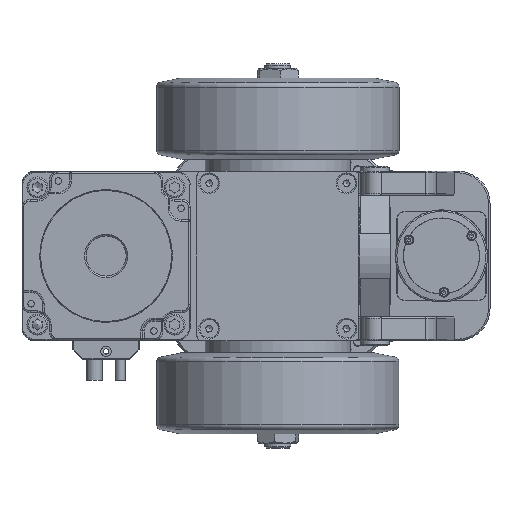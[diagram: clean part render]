
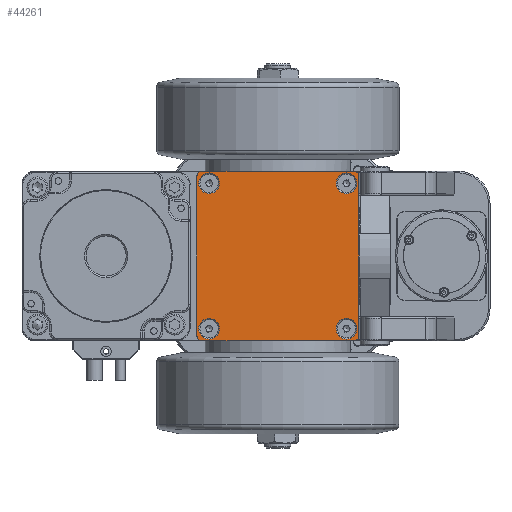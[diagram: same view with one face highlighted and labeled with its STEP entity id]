
A CAD part, front view. The second image highlights one B-rep face of the part: STEP entity #44261.
In plain terms, the highlighted planar face has unit normal (0, -1, 0).
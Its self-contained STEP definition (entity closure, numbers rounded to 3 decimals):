
#1093 = AXIS2_PLACEMENT_3D ( 'NONE', #84439, #37318, #6145 ) ;
#1751 = EDGE_CURVE ( 'NONE', #2199, #42253, #3228, .T. ) ;
#2199 = VERTEX_POINT ( 'NONE', #19975 ) ;
#3228 = CIRCLE ( 'NONE', #24307, 3. ) ;
#4154 = DIRECTION ( 'NONE',  ( 0., 1., 0. ) ) ;
#4697 = AXIS2_PLACEMENT_3D ( 'NONE', #79901, #55859, #70960 ) ;
#6057 = CARTESIAN_POINT ( 'NONE',  ( 71.768, -50.768, 225. ) ) ;
#6145 = DIRECTION ( 'NONE',  ( -1., 0., 0. ) ) ;
#6491 = EDGE_LOOP ( 'NONE', ( #69416 ) ) ;
#6681 = AXIS2_PLACEMENT_3D ( 'NONE', #91297, #82783, #84135 ) ;
#6698 = LINE ( 'NONE', #77908, #20109 ) ;
#6717 = CARTESIAN_POINT ( 'NONE',  ( 76.268, -50.768, 130.5 ) ) ;
#7576 = DIRECTION ( 'NONE',  ( 0., 0., 1. ) ) ;
#9274 = AXIS2_PLACEMENT_3D ( 'NONE', #6057, #52415, #100058 ) ;
#9608 = ORIENTED_EDGE ( 'NONE', *, *, #54075, .F. ) ;
#10111 = VERTEX_POINT ( 'NONE', #95355 ) ;
#14031 = VERTEX_POINT ( 'NONE', #74159 ) ;
#16000 = EDGE_CURVE ( 'NONE', #42253, #30107, #69125, .T. ) ;
#16005 = CIRCLE ( 'NONE', #85632, 6.4 ) ;
#19975 = CARTESIAN_POINT ( 'NONE',  ( 79.268, -50.768, 130.5 ) ) ;
#20109 = VECTOR ( 'NONE', #7576, 1000. ) ;
#21066 = DIRECTION ( 'NONE',  ( -1., 0., 0. ) ) ;
#21764 = ORIENTED_EDGE ( 'NONE', *, *, #97782, .F. ) ;
#23124 = FACE_BOUND ( 'NONE', #6491, .T. ) ;
#23220 = EDGE_LOOP ( 'NONE', ( #77703, #74365, #96656, #65817, #93229, #68236, #94081, #9608 ) ) ;
#24307 = AXIS2_PLACEMENT_3D ( 'NONE', #6717, #52401, #21066 ) ;
#24675 = CARTESIAN_POINT ( 'NONE',  ( -13.232, -50.768, 135. ) ) ;
#25256 = CARTESIAN_POINT ( 'NONE',  ( 76.268, -50.768, 232.5 ) ) ;
#27437 = DIRECTION ( 'NONE',  ( -1., 0., 0. ) ) ;
#27491 = ORIENTED_EDGE ( 'NONE', *, *, #78740, .F. ) ;
#28573 = DIRECTION ( 'NONE',  ( 1., 0., 0. ) ) ;
#29251 = DIRECTION ( 'NONE',  ( 0., 1., 0. ) ) ;
#29995 = CARTESIAN_POINT ( 'NONE',  ( -20.732, -50.768, 229.5 ) ) ;
#30107 = VERTEX_POINT ( 'NONE', #37716 ) ;
#30517 = AXIS2_PLACEMENT_3D ( 'NONE', #74434, #4154, #27437 ) ;
#34082 = EDGE_CURVE ( 'NONE', #41097, #39857, #44618, .T. ) ;
#34175 = FACE_OUTER_BOUND ( 'NONE', #23220, .T. ) ;
#36123 = DIRECTION ( 'NONE',  ( -1., 0., 0. ) ) ;
#37228 = VECTOR ( 'NONE', #54805, 1000. ) ;
#37261 = VERTEX_POINT ( 'NONE', #44270 ) ;
#37318 = DIRECTION ( 'NONE',  ( 0., 1., 0. ) ) ;
#37683 = VERTEX_POINT ( 'NONE', #25256 ) ;
#37716 = CARTESIAN_POINT ( 'NONE',  ( -17.732, -50.768, 127.5 ) ) ;
#39381 = CARTESIAN_POINT ( 'NONE',  ( 76.268, -50.768, 127.5 ) ) ;
#39857 = VERTEX_POINT ( 'NONE', #69624 ) ;
#40812 = AXIS2_PLACEMENT_3D ( 'NONE', #67027, #50974, #36123 ) ;
#41097 = VERTEX_POINT ( 'NONE', #29995 ) ;
#42253 = VERTEX_POINT ( 'NONE', #39381 ) ;
#42578 = EDGE_LOOP ( 'NONE', ( #27491 ) ) ;
#43554 = CIRCLE ( 'NONE', #4697, 6.4 ) ;
#44261 = ADVANCED_FACE ( 'NONE', ( #64898, #63620, #23124, #73439, #34175 ), #98822, .F. ) ;
#44270 = CARTESIAN_POINT ( 'NONE',  ( -19.632, -50.768, 225. ) ) ;
#44356 = CARTESIAN_POINT ( 'NONE',  ( -17.732, -50.768, 232.5 ) ) ;
#44618 = CIRCLE ( 'NONE', #79014, 3. ) ;
#48087 = DIRECTION ( 'NONE',  ( -1., 0., 0. ) ) ;
#50569 = CIRCLE ( 'NONE', #40812, 6.4 ) ;
#50974 = DIRECTION ( 'NONE',  ( 0., -1., 0. ) ) ;
#51985 = CARTESIAN_POINT ( 'NONE',  ( -17.732, -50.768, 229.5 ) ) ;
#52401 = DIRECTION ( 'NONE',  ( 0., 1., 0. ) ) ;
#52415 = DIRECTION ( 'NONE',  ( 0., -1., 0. ) ) ;
#52911 = EDGE_CURVE ( 'NONE', #37683, #71069, #98314, .T. ) ;
#54075 = EDGE_CURVE ( 'NONE', #39857, #37683, #100110, .T. ) ;
#54688 = EDGE_CURVE ( 'NONE', #71069, #2199, #86937, .T. ) ;
#54805 = DIRECTION ( 'NONE',  ( -1., 0., 0. ) ) ;
#55203 = CARTESIAN_POINT ( 'NONE',  ( -20.732, -50.768, 130.5 ) ) ;
#55859 = DIRECTION ( 'NONE',  ( 0., -1., 0. ) ) ;
#57799 = ORIENTED_EDGE ( 'NONE', *, *, #79603, .F. ) ;
#61048 = CIRCLE ( 'NONE', #1093, 3. ) ;
#62465 = CIRCLE ( 'NONE', #9274, 6.4 ) ;
#62761 = VERTEX_POINT ( 'NONE', #55203 ) ;
#63554 = EDGE_LOOP ( 'NONE', ( #57799 ) ) ;
#63620 = FACE_BOUND ( 'NONE', #42578, .T. ) ;
#64546 = EDGE_CURVE ( 'NONE', #30107, #62761, #61048, .T. ) ;
#64744 = VECTOR ( 'NONE', #75099, 1000. ) ;
#64898 = FACE_BOUND ( 'NONE', #74065, .T. ) ;
#65817 = ORIENTED_EDGE ( 'NONE', *, *, #16000, .F. ) ;
#66600 = EDGE_CURVE ( 'NONE', #14031, #14031, #16005, .T. ) ;
#67027 = CARTESIAN_POINT ( 'NONE',  ( -13.232, -50.768, 225. ) ) ;
#68236 = ORIENTED_EDGE ( 'NONE', *, *, #54688, .F. ) ;
#69125 = LINE ( 'NONE', #101148, #37228 ) ;
#69416 = ORIENTED_EDGE ( 'NONE', *, *, #66600, .F. ) ;
#69624 = CARTESIAN_POINT ( 'NONE',  ( -17.732, -50.768, 232.5 ) ) ;
#70960 = DIRECTION ( 'NONE',  ( -1., 0., 0. ) ) ;
#71069 = VERTEX_POINT ( 'NONE', #92421 ) ;
#73439 = FACE_BOUND ( 'NONE', #63554, .T. ) ;
#74065 = EDGE_LOOP ( 'NONE', ( #21764 ) ) ;
#74084 = VERTEX_POINT ( 'NONE', #100213 ) ;
#74159 = CARTESIAN_POINT ( 'NONE',  ( -19.632, -50.768, 135. ) ) ;
#74365 = ORIENTED_EDGE ( 'NONE', *, *, #94501, .F. ) ;
#74434 = CARTESIAN_POINT ( 'NONE',  ( 76.268, -50.768, 229.5 ) ) ;
#75099 = DIRECTION ( 'NONE',  ( 0., 0., -1. ) ) ;
#75230 = DIRECTION ( 'NONE',  ( 1., 0., 0. ) ) ;
#77703 = ORIENTED_EDGE ( 'NONE', *, *, #34082, .F. ) ;
#77908 = CARTESIAN_POINT ( 'NONE',  ( -20.732, -50.768, 130.5 ) ) ;
#78740 = EDGE_CURVE ( 'NONE', #74084, #74084, #43554, .T. ) ;
#79014 = AXIS2_PLACEMENT_3D ( 'NONE', #51985, #29251, #75230 ) ;
#79221 = VECTOR ( 'NONE', #28573, 1000. ) ;
#79603 = EDGE_CURVE ( 'NONE', #37261, #37261, #50569, .T. ) ;
#79635 = DIRECTION ( 'NONE',  ( 0., -1., 0. ) ) ;
#79901 = CARTESIAN_POINT ( 'NONE',  ( 71.768, -50.768, 135. ) ) ;
#82783 = DIRECTION ( 'NONE',  ( 0., 1., 0. ) ) ;
#84135 = DIRECTION ( 'NONE',  ( 1., 0., 0. ) ) ;
#84439 = CARTESIAN_POINT ( 'NONE',  ( -17.732, -50.768, 130.5 ) ) ;
#85632 = AXIS2_PLACEMENT_3D ( 'NONE', #24675, #79635, #48087 ) ;
#86937 = LINE ( 'NONE', #98827, #64744 ) ;
#91297 = CARTESIAN_POINT ( 'NONE',  ( -17.732, -50.768, 229.5 ) ) ;
#92421 = CARTESIAN_POINT ( 'NONE',  ( 79.268, -50.768, 229.5 ) ) ;
#93229 = ORIENTED_EDGE ( 'NONE', *, *, #1751, .F. ) ;
#94081 = ORIENTED_EDGE ( 'NONE', *, *, #52911, .F. ) ;
#94501 = EDGE_CURVE ( 'NONE', #62761, #41097, #6698, .T. ) ;
#95355 = CARTESIAN_POINT ( 'NONE',  ( 65.368, -50.768, 225. ) ) ;
#96656 = ORIENTED_EDGE ( 'NONE', *, *, #64546, .F. ) ;
#97782 = EDGE_CURVE ( 'NONE', #10111, #10111, #62465, .T. ) ;
#98314 = CIRCLE ( 'NONE', #30517, 3. ) ;
#98822 = PLANE ( 'NONE',  #6681 ) ;
#98827 = CARTESIAN_POINT ( 'NONE',  ( 79.268, -50.768, 130.5 ) ) ;
#100058 = DIRECTION ( 'NONE',  ( -1., 0., 0. ) ) ;
#100110 = LINE ( 'NONE', #44356, #79221 ) ;
#100213 = CARTESIAN_POINT ( 'NONE',  ( 65.368, -50.768, 135. ) ) ;
#101148 = CARTESIAN_POINT ( 'NONE',  ( -17.732, -50.768, 127.5 ) ) ;
